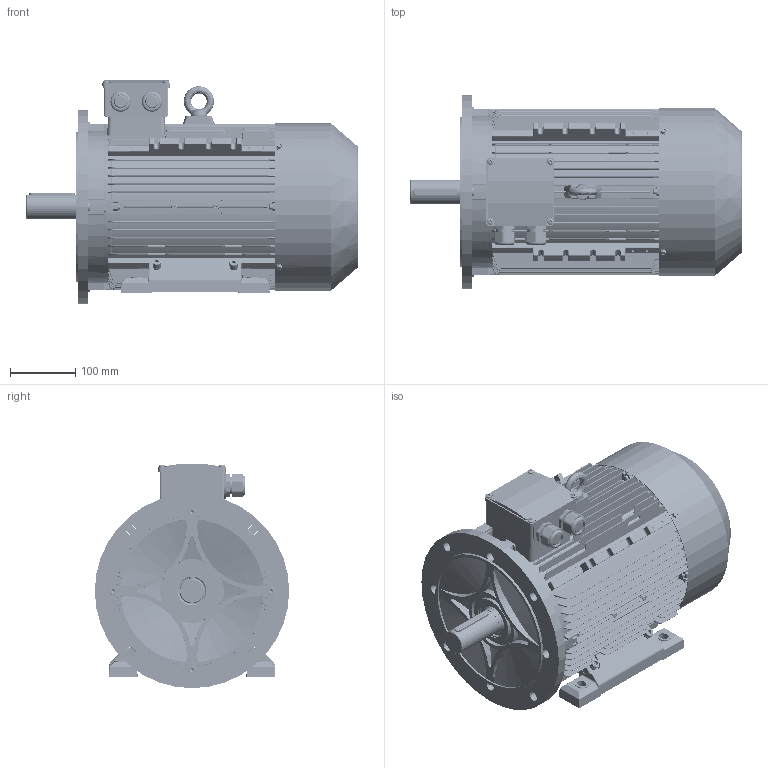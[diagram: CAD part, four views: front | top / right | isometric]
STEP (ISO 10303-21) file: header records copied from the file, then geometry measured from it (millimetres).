
FILE_DESCRIPTION (( 'STEP AP203' ), '1' );
FILE_NAME ('IE3 132M B35.STEP', '2018-07-17T07:06:43', ( 'admin' ), ( '' ), 'SwSTEP 2.0', 'SolidWorks 2014', '' );
FILE_SCHEMA (( 'CONFIG_CONTROL_DESIGN' ));
Length unit declared in the file: millimetre
Products named in the file (22): cross recessed pan head screws gb_GB_CROSS_SCREWS_TYPE1 M5X12-12  H type-N; DMX-IE3 132 oil seal; deep groove ball bearings gb_Rolling bearings 6308 GB 276-94; DMX-IE3 132S4  flange B5; plain parallel keys_GB_CONNECTING_PIECE_KEYS_CSK 10X70; DMX-IE3 132 feet ; IE3 132M B35; eyebolts gb_GB_FASTENER_SCREWS_FRS M10-N; DMX-IE3 132 feet2 ; spring lock washers--normal type gb_GB_FASTENER_WASHER_SW 8; DMX-IE3 132 fan; hexagon socket head cap screws gb_GB_FASTENER_SCREWS_HSHCS M8X40-N; DMX-IE3 132 fan cover; hexagon nuts grade c gb_GB_FASTENER_NUT_SNC1 M8-N; DMX-IE3 132 terminal base; DMX-IE3 132 casing ; hexagon flange head tapping screws gb_GB_SQUARE_AND_HEXAGON_TYPE137 ST4.8X9.5 C-N; DMX-IE3 132 terimianl cover; DMX-IE3 132 B3 Shield ; hexagon socket head cap screws gb_GB_FASTENER_SCREWS_HSHCS M8X35-N; DMX-IE3 132 shaft cover; DMX-IE3 132shaft
Assembly tree (61 placements, depth 2):
  IE3 132M B35
    DMX-IE3 132 casing 
    DMX-IE3 132 B3 Shield 
    DMX-IE3 132shaft
    deep groove ball bearings gb_Rolling bearings 6308 GB 276-94  x2
    DMX-IE3 132 feet 
    DMX-IE3 132 feet2 
    DMX-IE3 132 fan
    DMX-IE3 132 fan cover
    DMX-IE3 132 terminal base
    DMX-IE3 132 terimianl cover
    DMX-IE3 132 shaft cover  x2
    DMX-IE3 132 oil seal
    plain parallel keys_GB_CONNECTING_PIECE_KEYS_CSK 10X70
    eyebolts gb_GB_FASTENER_SCREWS_FRS M10-N
    spring lock washers--normal type gb_GB_FASTENER_WASHER_SW 8  x12
    hexagon socket head cap screws gb_GB_FASTENER_SCREWS_HSHCS M8X40-N  x8
    hexagon nuts grade c gb_GB_FASTENER_NUT_SNC1 M8-N  x12
    hexagon flange head tapping screws gb_GB_SQUARE_AND_HEXAGON_TYPE137 ST4.8X9.5 C-N  x4
    hexagon socket head cap screws gb_GB_FASTENER_SCREWS_HSHCS M8X35-N  x4
    cross recessed pan head screws gb_GB_CROSS_SCREWS_TYPE1 M5X12-12  H type-N  x4
    DMX-IE3 132S4  flange B5
Bounding box: 509.04 x 298 x 344 mm (x, y, z)
Volume: 4660840.6 mm3; surface area: 2004283.3 mm2
Topology: 62 solids, 64 shells, 7890 faces, 20467 edges, 12535 vertices
Faces by surface type: plane 2721, cylinder 2295, bspline 1988, cone 521, torus 277, sphere 88
Entity records: 282453 total; most frequent: CARTESIAN_POINT 124125, ORIENTED_EDGE 35900, DIRECTION 27259, EDGE_CURVE 17950, VERTEX_POINT 11052, AXIS2_PLACEMENT_3D 9656, VECTOR 7947, LINE 7947
